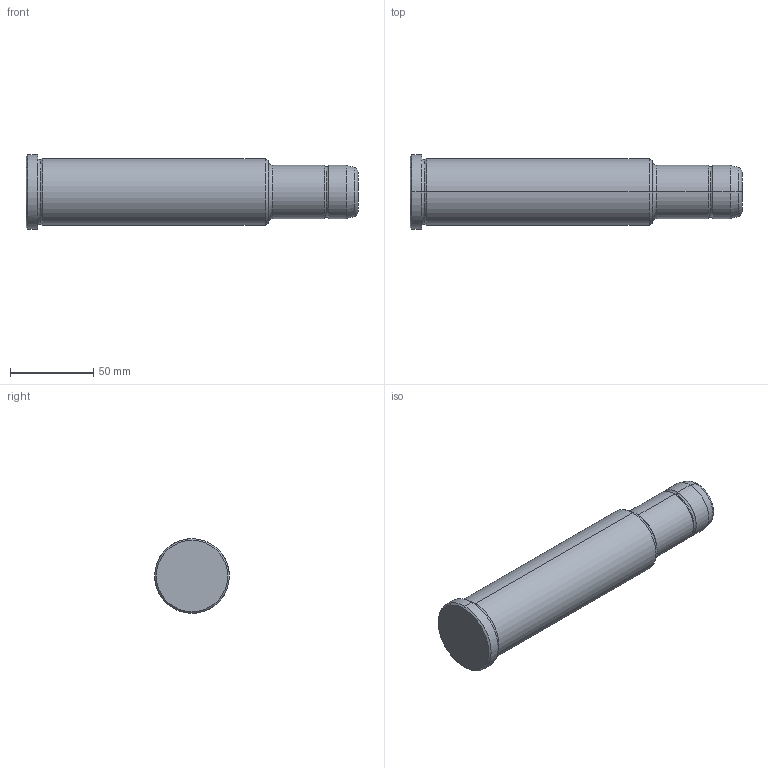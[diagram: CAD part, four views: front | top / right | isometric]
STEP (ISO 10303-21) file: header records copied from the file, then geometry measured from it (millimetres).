
FILE_DESCRIPTION(('CATIA V5 STEP Exchange'),'2;1');
FILE_NAME('C:\Users\Utente\Desktop\IO LAVORO\3D X SITO CF\X SITO\PLASTICA\351\351-32X146X200.stp','2021-09-15T12:21:02+00:00',('none'),('none'),'CATIA Version 5 Release 20 GA (IN-10)','CATIA V5 STEP AP203','none');
FILE_SCHEMA(('CONFIG_CONTROL_DESIGN'));
Length unit declared in the file: millimetre
Products named in the file (1): 351-32X146X200
Bounding box: 200 x 45 x 45 mm (x, y, z)
Volume: 228171.6 mm3; surface area: 26583.2 mm2
Topology: 1 solids, 1 shells, 30 faces, 86 edges, 60 vertices
Faces by surface type: torus 12, cylinder 8, cone 6, plane 4
Entity records: 1112 total; most frequent: CARTESIAN_POINT 289, ORIENTED_EDGE 172, DIRECTION 138, AXIS2_PLACEMENT_3D 95, EDGE_CURVE 86, CIRCLE 64, VERTEX_POINT 60, EDGE_LOOP 32
